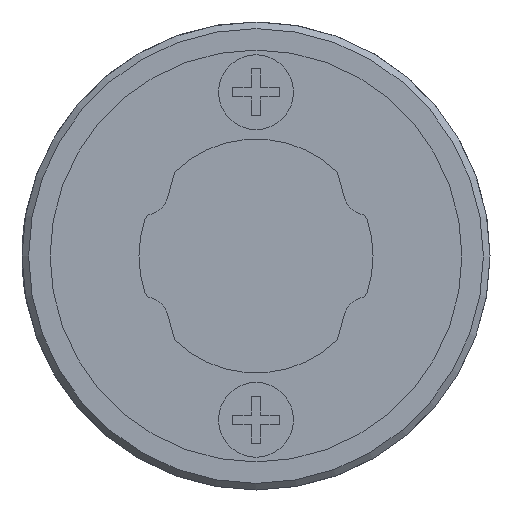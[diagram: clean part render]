
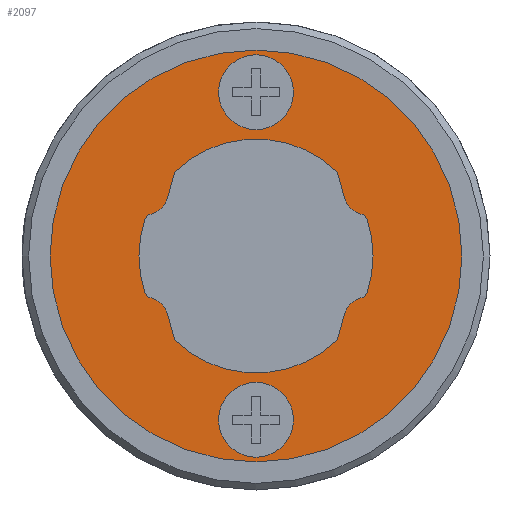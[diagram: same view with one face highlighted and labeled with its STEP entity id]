
A CAD part, left-side view. The second image highlights one B-rep face of the part: STEP entity #2097.
In plain terms, the highlighted planar face has unit normal (-1, 0, 0).
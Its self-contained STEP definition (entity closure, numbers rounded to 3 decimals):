
#50=PLANE('',#2297);
#170=LINE('',#3285,#380);
#171=LINE('',#3297,#381);
#172=LINE('',#3305,#382);
#173=LINE('',#3317,#383);
#380=VECTOR('',#2652,1000.);
#381=VECTOR('',#2663,1000.);
#382=VECTOR('',#2670,1000.);
#383=VECTOR('',#2681,1000.);
#703=ORIENTED_EDGE('',*,*,#1247,.F.);
#704=ORIENTED_EDGE('',*,*,#1248,.F.);
#705=ORIENTED_EDGE('',*,*,#1249,.F.);
#706=ORIENTED_EDGE('',*,*,#1250,.F.);
#707=ORIENTED_EDGE('',*,*,#1251,.F.);
#708=ORIENTED_EDGE('',*,*,#1252,.F.);
#709=ORIENTED_EDGE('',*,*,#1253,.T.);
#710=ORIENTED_EDGE('',*,*,#1254,.F.);
#711=ORIENTED_EDGE('',*,*,#1255,.F.);
#712=ORIENTED_EDGE('',*,*,#1256,.F.);
#713=ORIENTED_EDGE('',*,*,#1257,.T.);
#714=ORIENTED_EDGE('',*,*,#1258,.F.);
#715=ORIENTED_EDGE('',*,*,#1259,.F.);
#716=ORIENTED_EDGE('',*,*,#1260,.F.);
#717=ORIENTED_EDGE('',*,*,#1261,.F.);
#718=ORIENTED_EDGE('',*,*,#1262,.F.);
#719=ORIENTED_EDGE('',*,*,#1263,.T.);
#720=ORIENTED_EDGE('',*,*,#1264,.F.);
#721=ORIENTED_EDGE('',*,*,#1265,.F.);
#722=ORIENTED_EDGE('',*,*,#1266,.F.);
#723=ORIENTED_EDGE('',*,*,#1267,.T.);
#724=ORIENTED_EDGE('',*,*,#1268,.F.);
#725=ORIENTED_EDGE('',*,*,#1269,.F.);
#1247=EDGE_CURVE('',#1529,#1529,#1701,.T.);
#1248=EDGE_CURVE('',#1530,#1530,#1702,.F.);
#1249=EDGE_CURVE('',#1531,#1531,#1703,.F.);
#1250=EDGE_CURVE('',#1532,#1533,#1704,.F.);
#1251=EDGE_CURVE('',#1534,#1532,#1705,.F.);
#1252=EDGE_CURVE('',#1535,#1534,#170,.T.);
#1253=EDGE_CURVE('',#1535,#1536,#1706,.F.);
#1254=EDGE_CURVE('',#1537,#1536,#1707,.F.);
#1255=EDGE_CURVE('',#1538,#1537,#1708,.F.);
#1256=EDGE_CURVE('',#1539,#1538,#1709,.F.);
#1257=EDGE_CURVE('',#1539,#1540,#1710,.F.);
#1258=EDGE_CURVE('',#1541,#1540,#171,.T.);
#1259=EDGE_CURVE('',#1542,#1541,#1711,.F.);
#1260=EDGE_CURVE('',#1543,#1542,#1712,.F.);
#1261=EDGE_CURVE('',#1544,#1543,#1713,.F.);
#1262=EDGE_CURVE('',#1545,#1544,#172,.T.);
#1263=EDGE_CURVE('',#1545,#1546,#1714,.F.);
#1264=EDGE_CURVE('',#1547,#1546,#1715,.F.);
#1265=EDGE_CURVE('',#1548,#1547,#1716,.F.);
#1266=EDGE_CURVE('',#1549,#1548,#1717,.F.);
#1267=EDGE_CURVE('',#1549,#1550,#1718,.F.);
#1268=EDGE_CURVE('',#1551,#1550,#173,.T.);
#1269=EDGE_CURVE('',#1533,#1551,#1719,.F.);
#1529=VERTEX_POINT('',#3275);
#1530=VERTEX_POINT('',#3277);
#1531=VERTEX_POINT('',#3279);
#1532=VERTEX_POINT('',#3281);
#1533=VERTEX_POINT('',#3282);
#1534=VERTEX_POINT('',#3284);
#1535=VERTEX_POINT('',#3286);
#1536=VERTEX_POINT('',#3288);
#1537=VERTEX_POINT('',#3290);
#1538=VERTEX_POINT('',#3292);
#1539=VERTEX_POINT('',#3294);
#1540=VERTEX_POINT('',#3296);
#1541=VERTEX_POINT('',#3298);
#1542=VERTEX_POINT('',#3300);
#1543=VERTEX_POINT('',#3302);
#1544=VERTEX_POINT('',#3304);
#1545=VERTEX_POINT('',#3306);
#1546=VERTEX_POINT('',#3308);
#1547=VERTEX_POINT('',#3310);
#1548=VERTEX_POINT('',#3312);
#1549=VERTEX_POINT('',#3314);
#1550=VERTEX_POINT('',#3316);
#1551=VERTEX_POINT('',#3318);
#1701=CIRCLE('',#2298,4.4);
#1702=CIRCLE('',#2299,0.8);
#1703=CIRCLE('',#2300,0.8);
#1704=CIRCLE('',#2301,2.5);
#1705=CIRCLE('',#2302,0.15);
#1706=CIRCLE('',#2303,0.52);
#1707=CIRCLE('',#2304,0.15);
#1708=CIRCLE('',#2305,2.5);
#1709=CIRCLE('',#2306,0.15);
#1710=CIRCLE('',#2307,0.52);
#1711=CIRCLE('',#2308,0.15);
#1712=CIRCLE('',#2309,2.5);
#1713=CIRCLE('',#2310,0.15);
#1714=CIRCLE('',#2311,0.52);
#1715=CIRCLE('',#2312,0.15);
#1716=CIRCLE('',#2313,2.5);
#1717=CIRCLE('',#2314,0.15);
#1718=CIRCLE('',#2315,0.52);
#1719=CIRCLE('',#2316,0.15);
#1762=EDGE_LOOP('',(#703));
#1763=EDGE_LOOP('',(#704));
#1764=EDGE_LOOP('',(#705));
#1765=EDGE_LOOP('',(#706,#707,#708,#709,#710,#711,#712,#713,#714,#715,#716,
#717,#718,#719,#720,#721,#722,#723,#724,#725));
#1910=FACE_BOUND('',#1762,.T.);
#1911=FACE_BOUND('',#1763,.T.);
#1912=FACE_BOUND('',#1764,.T.);
#1913=FACE_BOUND('',#1765,.T.);
#2097=ADVANCED_FACE('',(#1910,#1911,#1912,#1913),#50,.F.);
#2297=AXIS2_PLACEMENT_3D('',#3273,#2640,#2641);
#2298=AXIS2_PLACEMENT_3D('',#3274,#2642,#2643);
#2299=AXIS2_PLACEMENT_3D('',#3276,#2644,#2645);
#2300=AXIS2_PLACEMENT_3D('',#3278,#2646,#2647);
#2301=AXIS2_PLACEMENT_3D('',#3280,#2648,#2649);
#2302=AXIS2_PLACEMENT_3D('',#3283,#2650,#2651);
#2303=AXIS2_PLACEMENT_3D('',#3287,#2653,#2654);
#2304=AXIS2_PLACEMENT_3D('',#3289,#2655,#2656);
#2305=AXIS2_PLACEMENT_3D('',#3291,#2657,#2658);
#2306=AXIS2_PLACEMENT_3D('',#3293,#2659,#2660);
#2307=AXIS2_PLACEMENT_3D('',#3295,#2661,#2662);
#2308=AXIS2_PLACEMENT_3D('',#3299,#2664,#2665);
#2309=AXIS2_PLACEMENT_3D('',#3301,#2666,#2667);
#2310=AXIS2_PLACEMENT_3D('',#3303,#2668,#2669);
#2311=AXIS2_PLACEMENT_3D('',#3307,#2671,#2672);
#2312=AXIS2_PLACEMENT_3D('',#3309,#2673,#2674);
#2313=AXIS2_PLACEMENT_3D('',#3311,#2675,#2676);
#2314=AXIS2_PLACEMENT_3D('',#3313,#2677,#2678);
#2315=AXIS2_PLACEMENT_3D('',#3315,#2679,#2680);
#2316=AXIS2_PLACEMENT_3D('',#3319,#2682,#2683);
#2640=DIRECTION('',(1.,0.,0.));
#2641=DIRECTION('',(0.,0.,-1.));
#2642=DIRECTION('',(1.,0.,0.));
#2643=DIRECTION('',(0.,0.,-1.));
#2644=DIRECTION('',(1.,0.,0.));
#2645=DIRECTION('',(0.,0.,-1.));
#2646=DIRECTION('',(1.,0.,0.));
#2647=DIRECTION('',(0.,0.,-1.));
#2648=DIRECTION('',(1.,0.,0.));
#2649=DIRECTION('',(0.,0.,-1.));
#2650=DIRECTION('',(1.,0.,0.));
#2651=DIRECTION('',(0.,0.,-1.));
#2652=DIRECTION('',(0.,0.268,0.963));
#2653=DIRECTION('',(1.,0.,0.));
#2654=DIRECTION('',(0.,0.,-1.));
#2655=DIRECTION('',(1.,0.,0.));
#2656=DIRECTION('',(0.,0.,-1.));
#2657=DIRECTION('',(1.,0.,0.));
#2658=DIRECTION('',(0.,0.,-1.));
#2659=DIRECTION('',(1.,0.,0.));
#2660=DIRECTION('',(0.,0.,-1.));
#2661=DIRECTION('',(1.,0.,0.));
#2662=DIRECTION('',(0.,0.,-1.));
#2663=DIRECTION('',(0.,-0.268,0.963));
#2664=DIRECTION('',(1.,0.,0.));
#2665=DIRECTION('',(0.,0.,-1.));
#2666=DIRECTION('',(1.,0.,0.));
#2667=DIRECTION('',(0.,0.,-1.));
#2668=DIRECTION('',(1.,0.,0.));
#2669=DIRECTION('',(0.,0.,-1.));
#2670=DIRECTION('',(0.,-0.268,-0.963));
#2671=DIRECTION('',(1.,0.,0.));
#2672=DIRECTION('',(0.,0.,-1.));
#2673=DIRECTION('',(1.,0.,0.));
#2674=DIRECTION('',(0.,0.,-1.));
#2675=DIRECTION('',(1.,0.,0.));
#2676=DIRECTION('',(0.,0.,-1.));
#2677=DIRECTION('',(1.,0.,0.));
#2678=DIRECTION('',(0.,0.,-1.));
#2679=DIRECTION('',(1.,0.,0.));
#2680=DIRECTION('',(0.,0.,-1.));
#2681=DIRECTION('',(0.,0.268,-0.963));
#2682=DIRECTION('',(1.,0.,0.));
#2683=DIRECTION('',(0.,0.,-1.));
#3273=CARTESIAN_POINT('',(-6.3,0.,0.));
#3274=CARTESIAN_POINT('',(-6.3,0.,0.));
#3275=CARTESIAN_POINT('',(-6.3,0.,-4.4));
#3276=CARTESIAN_POINT('',(-6.3,0.,-3.5));
#3277=CARTESIAN_POINT('',(-6.3,0.,-4.3));
#3278=CARTESIAN_POINT('',(-6.3,0.,3.5));
#3279=CARTESIAN_POINT('',(-6.3,0.,2.7));
#3280=CARTESIAN_POINT('',(-6.3,0.,0.));
#3281=CARTESIAN_POINT('',(-6.3,-1.73,1.805));
#3282=CARTESIAN_POINT('',(-6.3,1.73,1.805));
#3283=CARTESIAN_POINT('',(-6.3,-1.6,1.73));
#3284=CARTESIAN_POINT('',(-6.3,-1.745,1.77));
#3285=CARTESIAN_POINT('',(-6.3,-2.076,0.577));
#3286=CARTESIAN_POINT('',(-6.3,-1.889,1.251));
#3287=CARTESIAN_POINT('',(-6.3,-2.39,1.39));
#3288=CARTESIAN_POINT('',(-6.3,-2.266,0.885));
#3289=CARTESIAN_POINT('',(-6.3,-2.231,0.739));
#3290=CARTESIAN_POINT('',(-6.3,-2.373,0.786));
#3291=CARTESIAN_POINT('',(-6.3,0.,0.));
#3292=CARTESIAN_POINT('',(-6.3,-2.373,-0.786));
#3293=CARTESIAN_POINT('',(-6.3,-2.231,-0.739));
#3294=CARTESIAN_POINT('',(-6.3,-2.266,-0.885));
#3295=CARTESIAN_POINT('',(-6.3,-2.39,-1.39));
#3296=CARTESIAN_POINT('',(-6.3,-1.889,-1.251));
#3297=CARTESIAN_POINT('',(-6.3,-2.076,-0.577));
#3298=CARTESIAN_POINT('',(-6.3,-1.745,-1.77));
#3299=CARTESIAN_POINT('',(-6.3,-1.6,-1.73));
#3300=CARTESIAN_POINT('',(-6.3,-1.73,-1.805));
#3301=CARTESIAN_POINT('',(-6.3,0.,0.));
#3302=CARTESIAN_POINT('',(-6.3,1.73,-1.805));
#3303=CARTESIAN_POINT('',(-6.3,1.6,-1.73));
#3304=CARTESIAN_POINT('',(-6.3,1.745,-1.77));
#3305=CARTESIAN_POINT('',(-6.3,2.076,-0.577));
#3306=CARTESIAN_POINT('',(-6.3,1.889,-1.251));
#3307=CARTESIAN_POINT('',(-6.3,2.39,-1.39));
#3308=CARTESIAN_POINT('',(-6.3,2.266,-0.885));
#3309=CARTESIAN_POINT('',(-6.3,2.231,-0.739));
#3310=CARTESIAN_POINT('',(-6.3,2.373,-0.786));
#3311=CARTESIAN_POINT('',(-6.3,0.,0.));
#3312=CARTESIAN_POINT('',(-6.3,2.373,0.786));
#3313=CARTESIAN_POINT('',(-6.3,2.231,0.739));
#3314=CARTESIAN_POINT('',(-6.3,2.266,0.885));
#3315=CARTESIAN_POINT('',(-6.3,2.39,1.39));
#3316=CARTESIAN_POINT('',(-6.3,1.889,1.251));
#3317=CARTESIAN_POINT('',(-6.3,2.076,0.577));
#3318=CARTESIAN_POINT('',(-6.3,1.745,1.77));
#3319=CARTESIAN_POINT('',(-6.3,1.6,1.73));
